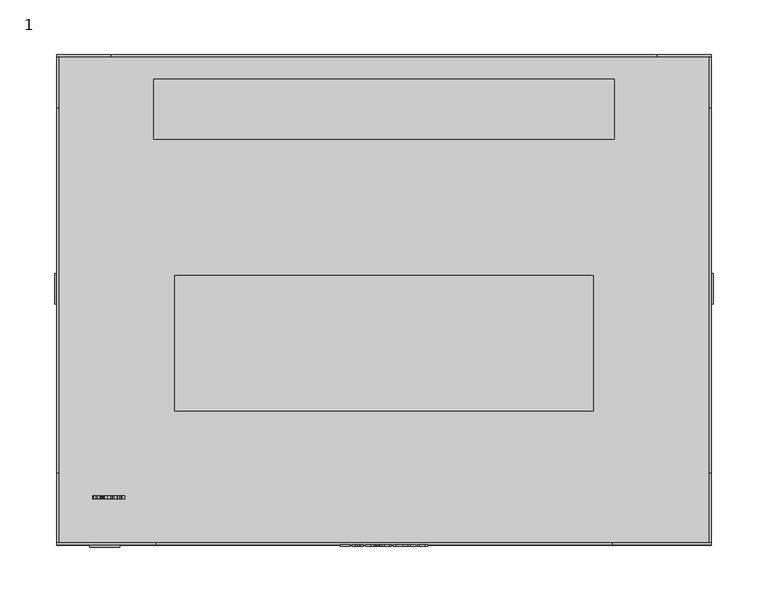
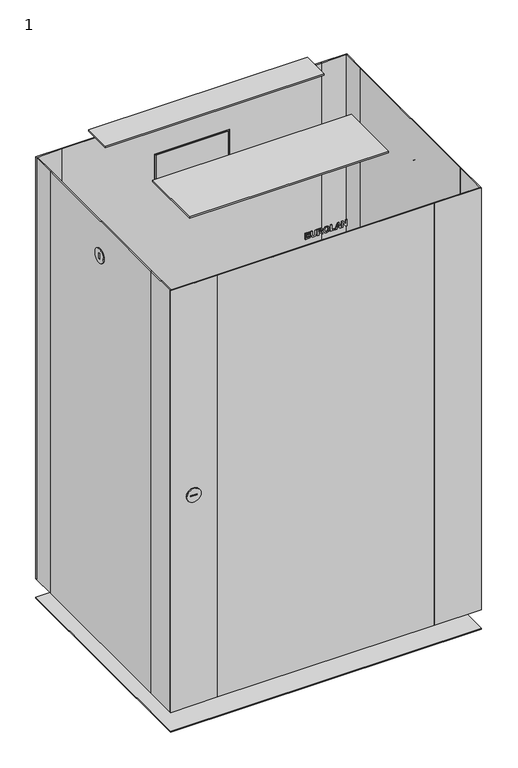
"""IFC4 building model written with IfcOpenShell, lengths in millimetres: proxy geometry, 1 : 18U 450мм стеклянная дверь."""

import ifcopenshell
import ifcopenshell.guid

model = None  # the IFC model being written
_history = None  # IfcOwnerHistory: only IFC2X3 demands one
_inside = {}  # id of a spatial element -> (the spatial element, [elements in it])
_under = {}  # id of a project, library or spatial element -> (it, [spatial elements below it])
_declared = {}  # id of a project -> (the project, [libraries it declares])
_typed = {}  # id of a type object -> (the type object, [elements of that type])
_made_of = {}  # id of a material, layer set ... -> (it, [elements and type objects made of it])


def new_model(schema):
    """Start an empty IFC model of exactly this schema.

    Asked for "IFC4X3", IfcOpenShell would pick the latest addendum, in which some entities
    have other attributes; the version numbers below select the first issue.
    IFC2X3 requires an IfcOwnerHistory on every rooted entity: one is made here for all.
    """
    global model, _history
    if schema == "IFC4X3":
        model = ifcopenshell.file(schema_version=(4, 3, 0, 0))
    else:
        model = ifcopenshell.file(schema=schema)
    _inside.clear()
    _under.clear()
    _declared.clear()
    _typed.clear()
    _made_of.clear()
    _history = None
    if model.schema == "IFC2X3":
        org = make("IfcOrganization", Name="unknown")
        user = make(
            "IfcPersonAndOrganization",
            ThePerson=make("IfcPerson", FamilyName="unknown"),
            TheOrganization=org,
        )
        app = make(
            "IfcApplication",
            ApplicationDeveloper=org,
            Version="unknown",
            ApplicationFullName="unknown",
            ApplicationIdentifier="unknown",
        )
        _history = make(
            "IfcOwnerHistory",
            OwningUser=user,
            OwningApplication=app,
            ChangeAction="ADDED",
            CreationDate=0,
        )
    return model


def make(cls, **values):
    """One entity of the class cls with the attributes given. An attribute that is None is left unset."""
    return model.create_entity(
        cls, **{name: value for name, value in values.items() if value is not None}
    )


def rooted(cls, **values):
    """An entity with a GlobalId (a new one), such as an element, a storey or a relation."""
    return make(cls, GlobalId=ifcopenshell.guid.new(), OwnerHistory=_history, **values)


def si_unit(unit_type, name, prefix=None):
    """IfcSIUnit, for example si_unit("LENGTHUNIT", "METRE", prefix="MILLI")."""
    return make("IfcSIUnit", UnitType=unit_type, Prefix=prefix, Name=name)


def assignment(units):
    """IfcUnitAssignment: the units of a project."""
    return None if units is None else make("IfcUnitAssignment", Units=units)


def point(xyz):
    """IfcCartesianPoint."""
    return None if xyz is None else make("IfcCartesianPoint", Coordinates=xyz)


def direction(xyz):
    """IfcDirection."""
    return None if xyz is None else make("IfcDirection", DirectionRatios=xyz)


def frame(location, z_axis=None, x_axis=None):
    """IfcAxis2Placement3D, a coordinate frame: its origin and axes. An axis left out is left unset."""
    return make(
        "IfcAxis2Placement3D",
        Location=point(location),
        Axis=direction(z_axis),
        RefDirection=direction(x_axis),
    )


def frame_2d(location, x_axis=None):
    """IfcAxis2Placement2D, a coordinate frame in the plane: its origin and x axis."""
    return make(
        "IfcAxis2Placement2D", Location=point(location), RefDirection=direction(x_axis)
    )


def origin():
    """The frame at (0, 0, 0) with its axes left unset."""
    return frame((0.0, 0.0, 0.0))


def origin_with_axes():
    """The frame at (0, 0, 0) with the z axis (0, 0, 1) and the x axis (1, 0, 0) written out."""
    return frame((0.0, 0.0, 0.0), z_axis=(0.0, 0.0, 1.0), x_axis=(1.0, 0.0, 0.0))


def place(relative_to, where):
    """IfcLocalPlacement: puts the frame where relative to a parent placement (None: the world)."""
    return make(
        "IfcLocalPlacement", PlacementRelTo=relative_to, RelativePlacement=where
    )


def context(
    kind, dimensions, precision=None, world=None, true_north=None, identifier=None
):
    """IfcGeometricRepresentationContext, for example the 3D "Model" context."""
    return make(
        "IfcGeometricRepresentationContext",
        ContextIdentifier=identifier,
        ContextType=kind,
        CoordinateSpaceDimension=dimensions,
        Precision=precision,
        WorldCoordinateSystem=world,
        TrueNorth=true_north,
    )


def project(units=None, contexts=None):
    """IfcProject with its units and contexts."""
    return rooted(
        "IfcProject",
        Name="project",
        RepresentationContexts=contexts,
        UnitsInContext=assignment(units),
    )


def spatial(cls, under=None, at=None, **own):
    """A site, building, storey or space (cls), placed at a placement, below another one or the project."""
    s = rooted(cls, ObjectPlacement=at, **own)
    if under is not None:
        _under.setdefault(under.id(), (under, []))[1].append(s)
    return s


def polyline(points):
    """IfcPolyline through the points."""
    return make("IfcPolyline", Points=[point(p) for p in points])


def circle_curve(where, radius):
    """IfcCircle in the frame where."""
    return make("IfcCircle", Position=where, Radius=radius)


def trimmed(basis, trim1, trim2, sense, master):
    """IfcTrimmedCurve: the piece of a basis curve between two trims."""
    return make(
        "IfcTrimmedCurve",
        BasisCurve=basis,
        Trim1=trim1,
        Trim2=trim2,
        SenseAgreement=sense,
        MasterRepresentation=master,
    )


def segment(curve, same_sense, transition):
    """IfcCompositeCurveSegment."""
    return make(
        "IfcCompositeCurveSegment",
        Transition=transition,
        SameSense=same_sense,
        ParentCurve=curve,
    )


def composite_curve(segments, self_intersect=None):
    """IfcCompositeCurve: segments joined end to end."""
    return make("IfcCompositeCurve", Segments=segments, SelfIntersect=self_intersect)


def outline(outer, holes=None, kind="AREA"):
    """IfcArbitraryClosedProfileDef: a profile drawn as a closed curve; with holes, ...WithVoids."""
    if holes is None:
        return make("IfcArbitraryClosedProfileDef", ProfileType=kind, OuterCurve=outer)
    return make(
        "IfcArbitraryProfileDefWithVoids",
        ProfileType=kind,
        OuterCurve=outer,
        InnerCurves=holes,
    )


def extrude(swept, where, along, depth):
    """IfcExtrudedAreaSolid: the profile swept, set in the frame where, extruded along a direction by depth."""
    return make(
        "IfcExtrudedAreaSolid",
        SweptArea=swept,
        Position=where,
        ExtrudedDirection=direction(along),
        Depth=depth,
    )


def shape(context_of_items, identifier, shape_type, items):
    """IfcShapeRepresentation: the items that make up one representation, for example the "Body"."""
    return make(
        "IfcShapeRepresentation",
        ContextOfItems=context_of_items,
        RepresentationIdentifier=identifier,
        RepresentationType=shape_type,
        Items=items,
    )


def source(mapping_origin, context_of_items, identifier, shape_type, items):
    """IfcRepresentationMap: a shape defined once, which mapped items show again and again."""
    return make(
        "IfcRepresentationMap",
        MappingOrigin=mapping_origin,
        MappedRepresentation=shape(context_of_items, identifier, shape_type, items),
    )


def transform(
    local_origin,
    x_axis=None,
    y_axis=None,
    z_axis=None,
    scale=None,
    scale2=None,
    scale3=None,
    uniform=True,
):
    """IfcCartesianTransformationOperator3D, or its non-uniform kind. x_axis, y_axis, z_axis: its Axis1, 2, 3."""
    if uniform:
        return make(
            "IfcCartesianTransformationOperator3D",
            Axis1=direction(x_axis),
            Axis2=direction(y_axis),
            LocalOrigin=point(local_origin),
            Scale=scale,
            Axis3=direction(z_axis),
        )
    return make(
        "IfcCartesianTransformationOperator3DnonUniform",
        Axis1=direction(x_axis),
        Axis2=direction(y_axis),
        LocalOrigin=point(local_origin),
        Scale=scale,
        Axis3=direction(z_axis),
        Scale2=scale2,
        Scale3=scale3,
    )


def mapped(mapping_source, mapping_target):
    """IfcMappedItem: shows the shape of a source again, moved by a transform."""
    return make(
        "IfcMappedItem", MappingSource=mapping_source, MappingTarget=mapping_target
    )


def made_of(thing, what):
    """Note that an element or type object is made of a material, layer set ...; save() writes the relation."""
    if what is not None:
        _made_of.setdefault(what.id(), (what, []))[1].append(thing)
    return thing


def element(
    cls,
    number,
    at=None,
    inside=None,
    cuts=None,
    type_object=None,
    material=None,
    context=None,
    identifier="Body",
    shape_type=None,
    held_by="IfcProductDefinitionShape",
    body=None,
    shapes=None,
    **own,
):
    """One element of the class cls, such as IfcWall. Its Tag is "e" and its number.

    at: its placement. inside: the storey or other place that contains it. cuts: it is an
    opening in that element (IfcRelVoidsElement). A single representation is given by context,
    identifier, shape_type and body (its items); several are given by shapes. held_by: the class
    of the entity that holds the representations. save() writes the other relations.
    """
    e = rooted(cls, Tag="e%d" % number, ObjectPlacement=at, **own)
    if body is not None:
        shapes = [shape(context, identifier, shape_type, body)]
    if shapes is not None:
        e.Representation = make(held_by, Representations=shapes)
    if inside is not None:
        _inside.setdefault(inside.id(), (inside, []))[1].append(e)
    if cuts is not None:
        rooted(
            "IfcRelVoidsElement", RelatingBuildingElement=cuts, RelatedOpeningElement=e
        )
    if type_object is not None:
        _typed.setdefault(type_object.id(), (type_object, []))[1].append(e)
    return made_of(e, material)


def aggregate(whole, parts):
    """IfcRelAggregates: a whole, such as a stair, and the parts it consists of."""
    return rooted("IfcRelAggregates", RelatingObject=whole, RelatedObjects=parts)


def save(model, path):
    """Write the relations noted so far, then the file.

    IfcRelAggregates (storeys below a building ...), IfcRelContainedInSpatialStructure (elements
    in a storey), IfcRelDefinesByType, IfcRelAssociatesMaterial and IfcRelDeclares: one each for
    every whole, place, type object, material and project.
    """
    for whole, parts in _under.values():
        aggregate(whole, parts)
    for where, things in _inside.values():
        rooted(
            "IfcRelContainedInSpatialStructure",
            RelatedElements=things,
            RelatingStructure=where,
        )
    for kind, things in _typed.values():
        rooted("IfcRelDefinesByType", RelatedObjects=things, RelatingType=kind)
    for what, things in _made_of.values():
        rooted("IfcRelAssociatesMaterial", RelatedObjects=things, RelatingMaterial=what)
    for by, libraries in _declared.values():
        rooted("IfcRelDeclares", RelatingContext=by, RelatedDefinitions=libraries)
    model.write(path)


def proxy_1_154220bf(model_context):
    return source(origin(), model_context, "Body", "SweptSolid", [
        extrude(outline(polyline([(914.0, -40.3245382), (914.0, -30.9964522), (916.1376864, -30.9964522), (916.1376864, -37.9925167), (919.2470483, -37.9925167), (919.2470483, -31.5794576), (921.3847347, -31.5794576), (921.3847347, -37.9925167), (924.1054264, -37.9925167), (924.1054264, -31.1907874), (926.2431128, -31.1907874), (926.2431128, -40.3245382), (914.0, -40.3245382)])), frame((0.0, -226.0, 0.0), z_axis=(0.0, 1.0, 0.0), x_axis=(0.0, 0.0, 1.0)), (0.0, 0.0, 1.0), 1.0),
        extrude(outline(polyline([(926.2431128, -29.053101), (919.7207402, -29.053101), (916.6174512, -28.8071456), (915.2601418, -28.1026808), (914.2095176, -26.6482039), (913.8056649, -23.9487675), (914.1761162, -21.5575346), (915.173602, -20.0954664), (916.7085458, -19.3454543), (919.8209443, -19.1420097), (926.2431128, -19.1420097), (926.2431128, -21.4740312), (919.4960402, -21.4740312), (917.4236383, -21.5924541), (916.3714958, -22.2923642), (915.9433512, -24.0216432), (916.3973059, -25.7979877), (917.5982363, -26.6208755), (919.6387551, -26.7210795), (926.2431128, -26.7210795), (926.2431128, -29.053101)])), frame((0.0, -226.0, 0.0), z_axis=(0.0, 1.0, 0.0), x_axis=(0.0, 0.0, 1.0)), (0.0, 0.0, 1.0), 1.0),
        extrude(outline(polyline([(914.0, -16.8099882), (914.0, -14.4779667), (919.0527132, -13.9435451), (918.9251808, -12.6120459), (918.4560437, -11.8164865), (916.7966039, -10.4242575), (914.0, -8.6509495), (914.0, -5.9272213), (916.3745323, -7.424209), (918.3512849, -8.7238252), (919.3715443, -9.9475291), (920.5071902, -7.6625732), (922.7936644, -6.8988969), (924.7339791, -7.4272455), (925.9121358, -8.8361752), (926.2431128, -11.6601074), (926.2431128, -16.8099882), (914.0, -16.8099882)]), holes=[polyline([(921.1903996, -14.4779667), (924.1054264, -14.4779667), (924.1054264, -12.4495939), (924.0659521, -10.5548264), (923.6150339, -9.5770778), (922.6782779, -9.2309184), (921.817434, -9.4935744), (921.3315962, -10.2223312), (921.1903996, -12.5558709), (921.1903996, -14.4779667)])]), frame((0.0, -226.0, 0.0), z_axis=(0.0, 1.0, 0.0), x_axis=(0.0, 0.0, 1.0)), (0.0, 0.0, 1.0), 1.0),
        extrude(outline(polyline([(920.0456442, -4.9555457), (915.4681411, -3.3735363), (913.8056649, 0.8896905), (915.4757323, 5.1225524), (920.106374, 6.7045618), (924.7628257, 5.1104065), (926.4374479, 0.8593256), (925.9546466, -1.7338337), (924.8539203, -3.2869964), (923.1792981, -4.4059416), (920.0456442, -4.9555457)]), holes=[polyline([(920.1306659, -2.6235242), (923.2612832, -1.6579215), (924.2997616, 0.886654), (923.2734292, 3.4190836), (920.1640672, 4.3725403), (916.9985302, 3.3932735), (915.9433512, 0.886654), (917.0061214, -1.6321114), (920.1306659, -2.6235242)])]), frame((0.0, -226.0, 0.0), z_axis=(0.0, 1.0, 0.0), x_axis=(0.0, 0.0, 1.0)), (0.0, 0.0, 1.0), 1.0),
        extrude(outline(polyline([(914.0, 8.647913), (914.0, 17.1986585), (916.1376864, 17.1986585), (916.1376864, 10.9799345), (926.2431128, 10.9799345), (926.2431128, 8.647913), (914.0, 8.647913)])), frame((0.0, -226.0, 0.0), z_axis=(0.0, 1.0, 0.0), x_axis=(0.0, 0.0, 1.0)), (0.0, 0.0, 1.0), 1.0),
        extrude(outline(polyline([(914.0, 29.2474361), (926.2431128, 24.7352175), (926.2431128, 22.2513717), (914.0, 17.7816638), (914.0, 20.2655096), (916.7206917, 21.2128934), (916.7206917, 25.837462), (914.0, 26.7969917), (914.0, 29.2474361)]), holes=[polyline([(918.8583781, 25.0904864), (918.8583781, 21.959869), (923.3280859, 23.51455), (918.8583781, 25.0904864)])]), frame((0.0, -226.0, 0.0), z_axis=(0.0, 1.0, 0.0), x_axis=(0.0, 0.0, 1.0)), (0.0, 0.0, 1.0), 1.0),
        extrude(outline(polyline([(914.0, 30.4134469), (914.0, 32.7454684), (922.1195644, 32.7454684), (914.0, 37.8042546), (914.0, 40.3245382), (926.2431128, 40.3245382), (926.2431128, 37.9925167), (918.002089, 37.9925167), (926.2431128, 32.8578184), (926.2431128, 30.4134469), (914.0, 30.4134469)])), frame((0.0, -226.0, 0.0), z_axis=(0.0, 1.0, 0.0), x_axis=(0.0, 0.0, 1.0)), (0.0, 0.0, 1.0), 1.0),
        extrude(outline(composite_curve([segment(trimmed(circle_curve(frame_2d((9.997621, 829.4611412)), 14.0), [point((-4.002379, 829.4611412))], [point((23.997621, 829.4611412))], False, "CARTESIAN"), True, "CONTINUOUS"), segment(trimmed(circle_curve(frame_2d((9.997621, 829.4611412)), 14.0), [point((23.997621, 829.4611412))], [point((-4.002379, 829.4611412))], False, "CARTESIAN"), True, "CONTINUOUS")], self_intersect=False), holes=[polyline([(11.0, 835.5), (9.0, 835.5), (9.0, 823.5), (11.0, 823.5), (11.0, 835.5)])]), frame((-302.0, 0.0, 0.0), z_axis=(1.0, 0.0, 0.0), x_axis=(0.0, 1.0, 0.0)), (0.0, 0.0, 1.0), 2.0),
        extrude(outline(composite_curve([segment(trimmed(circle_curve(frame_2d((9.997621, 829.4611412)), 14.0), [point((-4.002379, 829.4611412))], [point((23.997621, 829.4611412))], False, "CARTESIAN"), True, "CONTINUOUS"), segment(trimmed(circle_curve(frame_2d((9.997621, 829.4611412)), 14.0), [point((23.997621, 829.4611412))], [point((-4.002379, 829.4611412))], False, "CARTESIAN"), True, "CONTINUOUS")], self_intersect=False), holes=[polyline([(11.0, 835.5), (9.0, 835.5), (9.0, 823.5), (11.0, 823.5), (11.0, 835.5)])]), frame((300.0, 0.0, 0.0), z_axis=(1.0, 0.0, 0.0), x_axis=(0.0, 1.0, 0.0)), (0.0, 0.0, 1.0), 2.0),
        extrude(outline(composite_curve([segment(trimmed(circle_curve(frame_2d((469.0, -256.0)), 13.7647373), [point((469.0, -242.2352627))], [point((469.0, -269.7647373))], False, "CARTESIAN"), True, "CONTINUOUS"), segment(trimmed(circle_curve(frame_2d((469.0, -256.0)), 13.7647373), [point((469.0, -269.7647373))], [point((469.0, -242.2352627))], False, "CARTESIAN"), True, "CONTINUOUS")], self_intersect=False), holes=[polyline([(470.0, -250.0), (468.0, -250.0), (468.0, -262.0), (470.0, -262.0), (470.0, -250.0)])]), frame((0.0, -227.0, 0.0), z_axis=(0.0, 1.0, 0.0), x_axis=(0.0, 0.0, 1.0)), (0.0, 0.0, 1.0), 2.0),
        extrude(outline(polyline([(300.0, 225.0), (300.0, -225.0), (-300.0, -225.0), (-300.0, 225.0), (300.0, 225.0)])), origin_with_axes(), (0.0, 0.0, 1.0), 2.0),
        extrude(outline(polyline([(211.0, 202.5), (211.0, 147.5), (-211.0, 147.5), (-211.0, 202.5), (211.0, 202.5)])), frame((0.0, 0.0, 934.9795778), z_axis=(0.0, 0.0, 1.0), x_axis=(1.0, 0.0, 0.0)), (0.0, 0.0, 1.0), 3.0204222),
        extrude(outline(polyline([(192.0, 22.0), (192.0, -102.0), (-192.0, -102.0), (-192.0, 22.0), (192.0, 22.0)])), frame((0.0, 0.0, 934.9795778), z_axis=(0.0, 0.0, 1.0), x_axis=(1.0, 0.0, 0.0)), (0.0, 0.0, 1.0), 3.0204222),
        extrude(outline(polyline([(-69.5, 225.0), (69.5, 225.0), (69.5, 223.0), (-69.5, 223.0), (-69.5, 225.0)])), frame((0.0, 0.0, 775.0), z_axis=(0.0, 0.0, 1.0), x_axis=(1.0, 0.0, 0.0)), (0.0, 0.0, 1.0), 49.0),
        extrude(outline(polyline([(900.0, -250.0), (40.0, -250.0), (40.0, 250.0), (900.0, 250.0), (900.0, -250.0)]), holes=[polyline([(827.0, -72.5), (827.0, 72.5), (772.0, 72.5), (772.0, -72.5), (827.0, -72.5)])]), frame((0.0, 223.0, 0.0), z_axis=(0.0, 1.0, 0.0), x_axis=(0.0, 0.0, 1.0)), (0.0, 0.0, 1.0), 2.0),
        extrude(outline(polyline([(-300.0, 225.0), (-250.0, 225.0), (-250.0, 223.0), (-300.0, 223.0), (-300.0, 225.0)])), frame((0.0, 0.0, 40.0), z_axis=(0.0, 0.0, 1.0), x_axis=(1.0, 0.0, 0.0)), (0.0, 0.0, 1.0), 860.0),
        extrude(outline(polyline([(250.0, 225.0), (300.0, 225.0), (300.0, 223.0), (250.0, 223.0), (250.0, 225.0)])), frame((0.0, 0.0, 40.0), z_axis=(0.0, 0.0, 1.0), x_axis=(1.0, 0.0, 0.0)), (0.0, 0.0, 1.0), 860.0),
        extrude(outline(polyline([(-209.0, -223.0), (209.0, -223.0), (209.0, -225.0), (-209.0, -225.0), (-209.0, -223.0)])), frame((0.0, 0.0, 40.0), z_axis=(0.0, 0.0, 1.0), x_axis=(1.0, 0.0, 0.0)), (0.0, 0.0, 1.0), 860.0),
        extrude(outline(polyline([(209.0, -223.0), (300.0, -223.0), (300.0, -225.0), (209.0, -225.0), (209.0, -223.0)])), frame((0.0, 0.0, 40.0), z_axis=(0.0, 0.0, 1.0), x_axis=(1.0, 0.0, 0.0)), (0.0, 0.0, 1.0), 860.0),
        extrude(outline(polyline([(-300.0, -223.0), (-209.0, -223.0), (-209.0, -225.0), (-300.0, -225.0), (-300.0, -223.0)])), frame((0.0, 0.0, 40.0), z_axis=(0.0, 0.0, 1.0), x_axis=(1.0, 0.0, 0.0)), (0.0, 0.0, 1.0), 860.0),
        extrude(outline(polyline([(-298.0, 175.8155315), (-298.0, -158.7095641), (-300.0, -158.7095641), (-300.0, 175.8155315), (-298.0, 175.8155315)])), frame((0.0, 0.0, 40.0), z_axis=(0.0, 0.0, 1.0), x_axis=(1.0, 0.0, 0.0)), (0.0, 0.0, 1.0), 860.0),
        extrude(outline(polyline([(-298.0, -158.7095641), (-298.0, -225.0), (-300.0, -225.0), (-300.0, -158.7095641), (-298.0, -158.7095641)])), frame((0.0, 0.0, 40.0), z_axis=(0.0, 0.0, 1.0), x_axis=(1.0, 0.0, 0.0)), (0.0, 0.0, 1.0), 860.0),
        extrude(outline(polyline([(-298.0, 225.0), (-298.0, 175.8155315), (-300.0, 175.8155315), (-300.0, 225.0), (-298.0, 225.0)])), frame((0.0, 0.0, 40.0), z_axis=(0.0, 0.0, 1.0), x_axis=(1.0, 0.0, 0.0)), (0.0, 0.0, 1.0), 860.0),
        extrude(outline(polyline([(300.0, 175.8155315), (300.0, -158.7095641), (298.0, -158.7095641), (298.0, 175.8155315), (300.0, 175.8155315)])), frame((0.0, 0.0, 40.0), z_axis=(0.0, 0.0, 1.0), x_axis=(1.0, 0.0, 0.0)), (0.0, 0.0, 1.0), 860.0),
        extrude(outline(polyline([(300.0, 225.0), (300.0, 175.8155315), (298.0, 175.8155315), (298.0, 225.0), (300.0, 225.0)])), frame((0.0, 0.0, 40.0), z_axis=(0.0, 0.0, 1.0), x_axis=(1.0, 0.0, 0.0)), (0.0, 0.0, 1.0), 860.0),
        extrude(outline(polyline([(300.0, -158.7095641), (300.0, -225.0), (298.0, -225.0), (298.0, -158.7095641), (300.0, -158.7095641)])), frame((0.0, 0.0, 40.0), z_axis=(0.0, 0.0, 1.0), x_axis=(1.0, 0.0, 0.0)), (0.0, 0.0, 1.0), 860.0),
        extrude(outline(polyline([(814.9283299, -260.6030776), (827.1714427, -260.6030776), (827.1714427, -262.4614073), (825.2053178, -263.9037383), (824.0620807, -265.850126), (821.7300592, -265.850126), (823.6794834, -262.9350991), (814.9283299, -262.9350991), (814.9283299, -260.6030776)])), frame((0.0, -182.6777479, 0.0), z_axis=(0.0, 1.0, 0.0), x_axis=(0.0, 0.0, 1.0)), (0.0, 0.0, 1.0), 3.0),
        extrude(outline(polyline([(821.4962498, -255.0584536), (820.2254803, -256.6116164), (818.4172527, -257.1050454), (815.6024299, -255.8388306), (814.7339948, -253.1545767), (815.784619, -250.3761917), (818.5174567, -249.3316405), (820.3120201, -249.8584708), (821.4962498, -251.3964511), (822.508918, -250.0163681), (824.0226064, -249.5259756), (826.280234, -250.4946147), (827.1714427, -253.2183429), (826.280234, -255.9496624), (824.0226064, -256.9107103), (822.5499105, -256.4704198), (821.4962498, -255.0584536)]), holes=[polyline([(823.8798915, -254.5786888), (825.000355, -254.205201), (825.4224266, -253.2031605), (825.0033915, -252.2269302), (823.889001, -251.8579971), (822.7320997, -252.2314849), (822.3130646, -253.2274524), (822.727545, -254.2097557), (823.8798915, -254.5786888)]), polyline([(818.6146243, -254.7730239), (819.94916, -254.3889084), (820.5640485, -253.2213794), (820.0220357, -252.1039525), (818.5872959, -251.6636619), (817.0250237, -252.0963612), (816.4830109, -253.1910146), (817.0462791, -254.3205875), (818.6146243, -254.7730239)])]), frame((0.0, -182.6777479, 0.0), z_axis=(0.0, 1.0, 0.0), x_axis=(0.0, 0.0, 1.0)), (0.0, 0.0, 1.0), 3.0),
        extrude(outline(polyline([(827.1714427, -247.3882892), (820.6490701, -247.3882892), (817.5457811, -247.1423338), (816.1884717, -246.437869), (815.1378475, -244.9833921), (814.7339948, -242.2839557), (815.1044461, -239.8927228), (816.1019319, -238.4306546), (817.6368757, -237.6806425), (820.7492742, -237.4771979), (827.1714427, -237.4771979), (827.1714427, -239.8092194), (820.4243701, -239.8092194), (818.3519682, -239.9276424), (817.2998257, -240.6275524), (816.8716811, -242.3568314), (817.3256358, -244.1331759), (818.5265662, -244.9560637), (820.567085, -245.0562677), (827.1714427, -245.0562677), (827.1714427, -247.3882892)])), frame((0.0, -182.6777479, 0.0), z_axis=(0.0, 1.0, 0.0), x_axis=(0.0, 0.0, 1.0)), (0.0, 0.0, 1.0), 3.0),
        extrude(outline(polyline([(769.9283299, -260.6030776), (782.1714427, -260.6030776), (782.1714427, -262.4614073), (780.2053178, -263.9037383), (779.0620807, -265.850126), (776.7300592, -265.850126), (778.6794834, -262.9350991), (769.9283299, -262.9350991), (769.9283299, -260.6030776)])), frame((0.0, -182.6777479, 0.0), z_axis=(0.0, 1.0, 0.0), x_axis=(0.0, 0.0, 1.0)), (0.0, 0.0, 1.0), 3.0),
        extrude(outline(polyline([(779.6450861, -257.1050454), (779.6450861, -251.9976754), (775.0129262, -254.6804111), (769.9283299, -255.7446995), (769.9283299, -253.4126781), (773.5812229, -252.8873659), (777.440597, -251.3342032), (780.2280915, -249.3316405), (781.9771076, -249.3316405), (781.9771076, -257.1050454), (779.6450861, -257.1050454)])), frame((0.0, -182.6777479, 0.0), z_axis=(0.0, 1.0, 0.0), x_axis=(0.0, 0.0, 1.0)), (0.0, 0.0, 1.0), 3.0),
        extrude(outline(polyline([(782.1714427, -247.3882892), (775.6490701, -247.3882892), (772.5457811, -247.1423338), (771.1884717, -246.437869), (770.1378475, -244.9833921), (769.7339948, -242.2839557), (770.1044461, -239.8927228), (771.1019319, -238.4306546), (772.6368757, -237.6806425), (775.7492742, -237.4771979), (782.1714427, -237.4771979), (782.1714427, -239.8092194), (775.4243701, -239.8092194), (773.3519682, -239.9276424), (772.2998257, -240.6275524), (771.8716811, -242.3568314), (772.3256358, -244.1331759), (773.5265662, -244.9560637), (775.567085, -245.0562677), (782.1714427, -245.0562677), (782.1714427, -247.3882892)])), frame((0.0, -182.6777479, 0.0), z_axis=(0.0, 1.0, 0.0), x_axis=(0.0, 0.0, 1.0)), (0.0, 0.0, 1.0), 3.0),
        extrude(outline(polyline([(723.5967514, -260.6030776), (735.8398642, -260.6030776), (735.8398642, -262.4614073), (733.8737393, -263.9037383), (732.7305022, -265.850126), (730.3984808, -265.850126), (732.347905, -262.9350991), (723.5967514, -262.9350991), (723.5967514, -260.6030776)])), frame((0.0, -182.6777479, 0.0), z_axis=(0.0, 1.0, 0.0), x_axis=(0.0, 0.0, 1.0)), (0.0, 0.0, 1.0), 3.0),
        extrude(outline(polyline([(732.5908239, -249.5259756), (735.007867, -250.6373296), (735.8398642, -252.8387821), (734.3610954, -255.9192975), (729.5330822, -257.1050454), (724.8356378, -255.9693995), (723.4024163, -253.0725916), (724.512252, -250.3792282), (727.4561255, -249.3316405), (730.2770213, -250.3564546), (731.3701564, -252.8205632), (730.3468605, -254.9521766), (733.0569245, -254.3357699), (733.7021779, -253.1393943), (733.3696826, -252.2709592), (732.341832, -251.8579971), (732.5908239, -249.5259756)]), holes=[polyline([(727.5077458, -254.7730239), (728.795216, -254.3251422), (729.23247, -253.2304889), (728.7754788, -252.1115437), (727.3346661, -251.6636619), (725.9591378, -252.0796606), (725.5401027, -253.1181389), (726.0517506, -254.2689672), (727.5077458, -254.7730239)])]), frame((0.0, -182.6777479, 0.0), z_axis=(0.0, 1.0, 0.0), x_axis=(0.0, 0.0, 1.0)), (0.0, 0.0, 1.0), 3.0),
        extrude(outline(polyline([(735.8398642, -247.3882892), (729.3174916, -247.3882892), (726.2142026, -247.1423338), (724.8568932, -246.437869), (723.806269, -244.9833921), (723.4024163, -242.2839557), (723.7728676, -239.8927228), (724.7703534, -238.4306546), (726.3052972, -237.6806425), (729.4176957, -237.4771979), (735.8398642, -237.4771979), (735.8398642, -239.8092194), (729.0927916, -239.8092194), (727.0203897, -239.9276424), (725.9682472, -240.6275524), (725.5401027, -242.3568314), (725.9940574, -244.1331759), (727.1949877, -244.9560637), (729.2355065, -245.0562677), (735.8398642, -245.0562677), (735.8398642, -247.3882892)])), frame((0.0, -182.6777479, 0.0), z_axis=(0.0, 1.0, 0.0), x_axis=(0.0, 0.0, 1.0)), (0.0, 0.0, 1.0), 3.0),
        extrude(outline(polyline([(680.748317, -260.6030776), (692.9914298, -260.6030776), (692.9914298, -262.4614073), (691.0253049, -263.9037383), (689.8820678, -265.850126), (687.5500463, -265.850126), (689.4994705, -262.9350991), (680.748317, -262.9350991), (680.748317, -260.6030776)])), frame((0.0, -182.6777479, 0.0), z_axis=(0.0, 1.0, 0.0), x_axis=(0.0, 0.0, 1.0)), (0.0, 0.0, 1.0), 3.0),
        extrude(outline(polyline([(684.1947289, -257.1050454), (681.5408399, -255.8676772), (680.5539818, -253.194051), (682.1268817, -249.984485), (684.7473694, -249.1373053), (687.6122943, -250.1545282), (688.716057, -252.6323011), (688.2393287, -254.1353618), (690.4650731, -253.6647064), (690.4650731, -249.7203107), (692.7970946, -249.7203107), (692.7970946, -255.5503644), (685.9073072, -256.9107103), (685.606695, -254.8884104), (686.5783707, -253.1819051), (686.1077153, -251.9445369), (684.6957492, -251.4693268), (683.1911702, -251.9809748), (682.6916682, -253.2304889), (683.1623236, -254.3722077), (684.4406843, -254.967359), (684.1947289, -257.1050454)])), frame((0.0, -182.6777479, 0.0), z_axis=(0.0, 1.0, 0.0), x_axis=(0.0, 0.0, 1.0)), (0.0, 0.0, 1.0), 3.0),
        extrude(outline(polyline([(692.9914298, -247.3882892), (686.4690572, -247.3882892), (683.3657682, -247.1423338), (682.0084588, -246.437869), (680.9578345, -244.9833921), (680.5539818, -242.2839557), (680.9244332, -239.8927228), (681.9219189, -238.4306546), (683.4568627, -237.6806425), (686.5692612, -237.4771979), (692.9914298, -237.4771979), (692.9914298, -239.8092194), (686.2443572, -239.8092194), (684.1719553, -239.9276424), (683.1198128, -240.6275524), (682.6916682, -242.3568314), (683.1456229, -244.1331759), (684.3465532, -244.9560637), (686.387072, -245.0562677), (692.9914298, -245.0562677), (692.9914298, -247.3882892)])), frame((0.0, -182.6777479, 0.0), z_axis=(0.0, 1.0, 0.0), x_axis=(0.0, 0.0, 1.0)), (0.0, 0.0, 1.0), 3.0),
        extrude(outline(polyline([(636.0351924, -260.6030776), (648.2783052, -260.6030776), (648.2783052, -262.4614073), (646.3121803, -263.9037383), (645.1689432, -265.850126), (642.8369217, -265.850126), (644.7863459, -262.9350991), (636.0351924, -262.9350991), (636.0351924, -260.6030776)])), frame((0.0, -182.6777479, 0.0), z_axis=(0.0, 1.0, 0.0), x_axis=(0.0, 0.0, 1.0)), (0.0, 0.0, 1.0), 3.0),
        extrude(outline(polyline([(636.0351924, -252.8296727), (636.0351924, -250.4976512), (638.561549, -250.4976512), (638.561549, -248.9429702), (640.5049002, -248.9429702), (640.5049002, -250.4976512), (648.08397, -250.4976512), (648.08397, -252.5199511), (640.4957907, -257.4937157), (638.561549, -257.4937157), (638.561549, -252.8296727), (636.0351924, -252.8296727)]), holes=[polyline([(640.5049002, -252.8296727), (640.5049002, -255.4349779), (644.4826973, -252.8296727), (640.5049002, -252.8296727)])]), frame((0.0, -182.6777479, 0.0), z_axis=(0.0, 1.0, 0.0), x_axis=(0.0, 0.0, 1.0)), (0.0, 0.0, 1.0), 3.0),
        extrude(outline(polyline([(648.2783052, -247.3882892), (641.7559326, -247.3882892), (638.6526436, -247.1423338), (637.2953342, -246.437869), (636.2447099, -244.9833921), (635.8408572, -242.2839557), (636.2113086, -239.8927228), (637.2087943, -238.4306546), (638.7437381, -237.6806425), (641.8561366, -237.4771979), (648.2783052, -237.4771979), (648.2783052, -239.8092194), (641.5312326, -239.8092194), (639.4588307, -239.9276424), (638.4066882, -240.6275524), (637.9785436, -242.3568314), (638.4324983, -244.1331759), (639.6334286, -244.9560637), (641.6739474, -245.0562677), (648.2783052, -245.0562677), (648.2783052, -247.3882892)])), frame((0.0, -182.6777479, 0.0), z_axis=(0.0, 1.0, 0.0), x_axis=(0.0, 0.0, 1.0)), (0.0, 0.0, 1.0), 3.0),
        extrude(outline(polyline([(591.485825, -260.6030776), (603.7289378, -260.6030776), (603.7289378, -262.4614073), (601.762813, -263.9037383), (600.6195759, -265.850126), (598.2875544, -265.850126), (600.2369786, -262.9350991), (591.485825, -262.9350991), (591.485825, -260.6030776)])), frame((0.0, -182.6777479, 0.0), z_axis=(0.0, 1.0, 0.0), x_axis=(0.0, 0.0, 1.0)), (0.0, 0.0, 1.0), 3.0),
        extrude(outline(polyline([(594.9079451, -257.1050454), (592.2920122, -255.8919691), (591.2914899, -253.2578173), (592.4165081, -250.4566586), (595.1356816, -249.3316405), (597.0137484, -249.9662661), (598.0142706, -251.6606255), (600.5861745, -249.9146458), (602.6266933, -250.7284242), (603.7289378, -253.3458754), (603.3311581, -255.0690813), (602.2395413, -256.2684934), (600.3857664, -256.9107103), (600.0365705, -254.5786888), (601.19499, -254.1611719), (601.5912515, -253.3306929), (601.2496468, -252.5427247), (600.3341462, -252.2466673), (599.253157, -252.6429288), (598.8705597, -253.7922388), (596.9484639, -253.9956834), (597.1215436, -253.0695551), (596.6387423, -252.0720693), (595.3300167, -251.6636619), (593.9438607, -252.1100254), (593.4291763, -253.21227), (593.8785763, -254.2477118), (595.1781924, -254.7730239), (594.9079451, -257.1050454)])), frame((0.0, -182.6777479, 0.0), z_axis=(0.0, 1.0, 0.0), x_axis=(0.0, 0.0, 1.0)), (0.0, 0.0, 1.0), 3.0),
        extrude(outline(polyline([(603.7289378, -247.3882892), (597.2065653, -247.3882892), (594.1032762, -247.1423338), (592.7459669, -246.437869), (591.6953426, -244.9833921), (591.2914899, -242.2839557), (591.6619413, -239.8927228), (592.659427, -238.4306546), (594.1943708, -237.6806425), (597.3067693, -237.4771979), (603.7289378, -237.4771979), (603.7289378, -239.8092194), (596.9818653, -239.8092194), (594.9094634, -239.9276424), (593.8573209, -240.6275524), (593.4291763, -242.3568314), (593.883131, -244.1331759), (595.0840613, -244.9560637), (597.1245801, -245.0562677), (603.7289378, -245.0562677), (603.7289378, -247.3882892)])), frame((0.0, -182.6777479, 0.0), z_axis=(0.0, 1.0, 0.0), x_axis=(0.0, 0.0, 1.0)), (0.0, 0.0, 1.0), 3.0),
        extrude(outline(polyline([(547.6333267, -260.6030776), (559.8764395, -260.6030776), (559.8764395, -262.4614073), (557.9103146, -263.9037383), (556.7670775, -265.850126), (554.435056, -265.850126), (556.3844802, -262.9350991), (547.6333267, -262.9350991), (547.6333267, -260.6030776)])), frame((0.0, -182.6777479, 0.0), z_axis=(0.0, 1.0, 0.0), x_axis=(0.0, 0.0, 1.0)), (0.0, 0.0, 1.0), 3.0),
        extrude(outline(polyline([(549.9653481, -249.3316405), (550.6030103, -253.2395983), (551.9299548, -251.9080991), (553.4603439, -250.4581769), (554.9937695, -249.6018877), (556.5363045, -249.3316405), (558.918428, -250.3184985), (559.8764395, -253.0331173), (559.0216686, -255.6596779), (556.202291, -256.9107103), (555.989737, -254.5786888), (557.3333822, -254.1292888), (557.7387531, -253.0847375), (557.3273092, -252.0417045), (556.1476343, -251.6636619), (554.7447776, -252.1130619), (552.7892804, -253.9167348), (549.9213191, -256.3611063), (547.6333267, -257.1050454), (547.6333267, -249.3316405), (549.9653481, -249.3316405)])), frame((0.0, -182.6777479, 0.0), z_axis=(0.0, 1.0, 0.0), x_axis=(0.0, 0.0, 1.0)), (0.0, 0.0, 1.0), 3.0),
        extrude(outline(polyline([(559.8764395, -247.3882892), (553.3540669, -247.3882892), (550.2507779, -247.1423338), (548.8934685, -246.437869), (547.8428442, -244.9833921), (547.4389915, -242.2839557), (547.8094429, -239.8927228), (548.8069286, -238.4306546), (550.3418725, -237.6806425), (553.4542709, -237.4771979), (559.8764395, -237.4771979), (559.8764395, -239.8092194), (553.1293669, -239.8092194), (551.056965, -239.9276424), (550.0048225, -240.6275524), (549.5766779, -242.3568314), (550.0306326, -244.1331759), (551.2315629, -244.9560637), (553.2720817, -245.0562677), (559.8764395, -245.0562677), (559.8764395, -247.3882892)])), frame((0.0, -182.6777479, 0.0), z_axis=(0.0, 1.0, 0.0), x_axis=(0.0, 0.0, 1.0)), (0.0, 0.0, 1.0), 3.0),
        extrude(outline(polyline([(501.1786301, -260.6030776), (513.4217429, -260.6030776), (513.4217429, -262.4614073), (511.455618, -263.9037383), (510.3123809, -265.850126), (507.9803594, -265.850126), (509.9297836, -262.9350991), (501.1786301, -262.9350991), (501.1786301, -260.6030776)])), frame((0.0, -182.6777479, 0.0), z_axis=(0.0, 1.0, 0.0), x_axis=(0.0, 0.0, 1.0)), (0.0, 0.0, 1.0), 3.0),
        extrude(outline(polyline([(501.1786301, -251.2749917), (513.4217429, -251.2749917), (513.4217429, -253.1333213), (511.455618, -254.5756523), (510.3123809, -256.52204), (507.9803594, -256.52204), (509.9297836, -253.6070132), (501.1786301, -253.6070132), (501.1786301, -251.2749917)])), frame((0.0, -182.6777479, 0.0), z_axis=(0.0, 1.0, 0.0), x_axis=(0.0, 0.0, 1.0)), (0.0, 0.0, 1.0), 3.0),
        extrude(outline(polyline([(513.4217429, -247.3882892), (506.8993703, -247.3882892), (503.7960813, -247.1423338), (502.4387719, -246.437869), (501.3881476, -244.9833921), (500.9842949, -242.2839557), (501.3547463, -239.8927228), (502.352232, -238.4306546), (503.8871758, -237.6806425), (506.9995743, -237.4771979), (513.4217429, -237.4771979), (513.4217429, -239.8092194), (506.6746703, -239.8092194), (504.6022684, -239.9276424), (503.5501259, -240.6275524), (503.1219813, -242.3568314), (503.575936, -244.1331759), (504.7768663, -244.9560637), (506.8173851, -245.0562677), (513.4217429, -245.0562677), (513.4217429, -247.3882892)])), frame((0.0, -182.6777479, 0.0), z_axis=(0.0, 1.0, 0.0), x_axis=(0.0, 0.0, 1.0)), (0.0, 0.0, 1.0), 3.0),
        extrude(outline(polyline([(457.3261317, -260.6030776), (469.5692445, -260.6030776), (469.5692445, -262.4614073), (467.6031196, -263.9037383), (466.4598825, -265.850126), (464.127861, -265.850126), (466.0772852, -262.9350991), (457.3261317, -262.9350991), (457.3261317, -260.6030776)])), frame((0.0, -182.6777479, 0.0), z_axis=(0.0, 1.0, 0.0), x_axis=(0.0, 0.0, 1.0)), (0.0, 0.0, 1.0), 3.0),
        extrude(outline(polyline([(469.5692445, -253.2183429), (468.3242851, -255.9299252), (463.3717759, -257.1050454), (458.4982154, -256.034684), (457.1317966, -253.2183429), (458.3767559, -250.5067607), (463.347484, -249.3316405), (468.3060662, -250.5006877), (469.5692445, -253.2183429)]), holes=[polyline([(467.4315581, -253.2183429), (467.174975, -252.4455572), (466.1531974, -251.8853254), (463.347484, -251.6636619), (460.4476396, -251.9126538), (459.526066, -252.4410024), (459.2694829, -253.2183429), (459.5230295, -253.9911287), (460.5402524, -254.5513604), (463.347484, -254.7730239), (466.2534014, -254.524032), (467.174975, -253.9956834), (467.4315581, -253.2183429)])]), frame((0.0, -182.6777479, 0.0), z_axis=(0.0, 1.0, 0.0), x_axis=(0.0, 0.0, 1.0)), (0.0, 0.0, 1.0), 3.0),
        extrude(outline(polyline([(469.5692445, -247.3882892), (463.0468719, -247.3882892), (459.9435829, -247.1423338), (458.5862735, -246.437869), (457.5356492, -244.9833921), (457.1317966, -242.2839557), (457.5022479, -239.8927228), (458.4997336, -238.4306546), (460.0346775, -237.6806425), (463.1470759, -237.4771979), (469.5692445, -237.4771979), (469.5692445, -239.8092194), (462.8221719, -239.8092194), (460.74977, -239.9276424), (459.6976275, -240.6275524), (459.2694829, -242.3568314), (459.7234376, -244.1331759), (460.924368, -244.9560637), (462.9648868, -245.0562677), (469.5692445, -245.0562677), (469.5692445, -247.3882892)])), frame((0.0, -182.6777479, 0.0), z_axis=(0.0, 1.0, 0.0), x_axis=(0.0, 0.0, 1.0)), (0.0, 0.0, 1.0), 3.0),
        extrude(outline(polyline([(416.2414631, -266.2387962), (413.8062011, -265.1547706), (412.9924228, -262.9381356), (414.4696734, -259.8469925), (419.2870589, -258.6597264), (423.9981674, -259.7953723), (425.4298707, -262.7012897), (424.3169985, -265.3809888), (421.3852709, -266.4331314), (418.550711, -265.4083172), (417.4621306, -262.971537), (418.476317, -260.8065222), (415.7753625, -261.4290019), (415.1301091, -262.6071586), (415.4641226, -263.4922944), (416.490455, -263.9067747), (416.2414631, -266.2387962)]), holes=[polyline([(421.3306142, -260.9917479), (420.0385892, -261.4365931), (419.599817, -262.5312464), (420.0568082, -263.6517099), (421.4885115, -264.1011099), (422.8701127, -263.6881477), (423.2921843, -262.6496694), (422.7774999, -261.4927681), (421.3306142, -260.9917479)])]), frame((0.0, -182.6777479, 0.0), z_axis=(0.0, 1.0, 0.0), x_axis=(0.0, 0.0, 1.0)), (0.0, 0.0, 1.0), 3.0),
        extrude(outline(polyline([(425.4298707, -256.7163752), (418.9074981, -256.7163752), (415.8042091, -256.4704198), (414.4468997, -255.7659549), (413.3962754, -254.311478), (412.9924228, -251.6120417), (413.3628741, -249.2208087), (414.3603599, -247.7587405), (415.8953037, -247.0087284), (419.0077021, -246.8052838), (425.4298707, -246.8052838), (425.4298707, -249.1373053), (418.6827981, -249.1373053), (416.6103962, -249.2557283), (415.5582537, -249.9556384), (415.1301091, -251.6849173), (415.5840638, -253.4612618), (416.7849942, -254.2841496), (418.825513, -254.3843537), (425.4298707, -254.3843537), (425.4298707, -256.7163752)])), frame((0.0, -182.6777479, 0.0), z_axis=(0.0, 1.0, 0.0), x_axis=(0.0, 0.0, 1.0)), (0.0, 0.0, 1.0), 3.0),
        extrude(outline(polyline([(376.4962498, -264.3865396), (375.2254803, -265.9397023), (373.4172527, -266.4331314), (370.6024299, -265.1669166), (369.7339948, -262.4826627), (370.784619, -259.7042777), (373.5174567, -258.6597264), (375.3120201, -259.1865568), (376.4962498, -260.7245371), (377.508918, -259.3444541), (379.0226064, -258.8540615), (381.280234, -259.8227007), (382.1714427, -262.5464289), (381.280234, -265.2777483), (379.0226064, -266.2387962), (377.5499105, -265.7985057), (376.4962498, -264.3865396)]), holes=[polyline([(378.8798915, -263.9067747), (380.000355, -263.5332869), (380.4224266, -262.5312464), (380.0033915, -261.5550161), (378.889001, -261.186083), (377.7320997, -261.5595708), (377.3130646, -262.5555383), (377.727545, -263.5378417), (378.8798915, -263.9067747)]), polyline([(373.6146243, -264.1011099), (374.94916, -263.7169943), (375.5640485, -262.5494654), (375.0220357, -261.4320384), (373.5872959, -260.9917479), (372.0250237, -261.4244472), (371.4830109, -262.5191005), (372.0462791, -263.6486734), (373.6146243, -264.1011099)])]), frame((0.0, -182.6777479, 0.0), z_axis=(0.0, 1.0, 0.0), x_axis=(0.0, 0.0, 1.0)), (0.0, 0.0, 1.0), 3.0),
        extrude(outline(polyline([(382.1714427, -256.7163752), (375.6490701, -256.7163752), (372.5457811, -256.4704198), (371.1884717, -255.7659549), (370.1378475, -254.311478), (369.7339948, -251.6120417), (370.1044461, -249.2208087), (371.1019319, -247.7587405), (372.6368757, -247.0087284), (375.7492742, -246.8052838), (382.1714427, -246.8052838), (382.1714427, -249.1373053), (375.4243701, -249.1373053), (373.3519682, -249.2557283), (372.2998257, -249.9556384), (371.8716811, -251.6849173), (372.3256358, -253.4612618), (373.5265662, -254.2841496), (375.567085, -254.3843537), (382.1714427, -254.3843537), (382.1714427, -256.7163752)])), frame((0.0, -182.6777479, 0.0), z_axis=(0.0, 1.0, 0.0), x_axis=(0.0, 0.0, 1.0)), (0.0, 0.0, 1.0), 3.0),
        extrude(outline(polyline([(334.6450861, -266.4331314), (334.6450861, -261.3257614), (330.0129262, -264.008497), (324.9283299, -265.0727855), (324.9283299, -262.740764), (328.5812229, -262.2154519), (332.440597, -260.6622891), (335.2280915, -258.6597264), (336.9771076, -258.6597264), (336.9771076, -266.4331314), (334.6450861, -266.4331314)])), frame((0.0, -182.6777479, 0.0), z_axis=(0.0, 1.0, 0.0), x_axis=(0.0, 0.0, 1.0)), (0.0, 0.0, 1.0), 3.0),
        extrude(outline(polyline([(337.1714427, -256.7163752), (330.6490701, -256.7163752), (327.5457811, -256.4704198), (326.1884717, -255.7659549), (325.1378475, -254.311478), (324.7339948, -251.6120417), (325.1044461, -249.2208087), (326.1019319, -247.7587405), (327.6368757, -247.0087284), (330.7492742, -246.8052838), (337.1714427, -246.8052838), (337.1714427, -249.1373053), (330.4243701, -249.1373053), (328.3519682, -249.2557283), (327.2998257, -249.9556384), (326.8716811, -251.6849173), (327.3256358, -253.4612618), (328.5265662, -254.2841496), (330.567085, -254.3843537), (337.1714427, -254.3843537), (337.1714427, -256.7163752)])), frame((0.0, -182.6777479, 0.0), z_axis=(0.0, 1.0, 0.0), x_axis=(0.0, 0.0, 1.0)), (0.0, 0.0, 1.0), 3.0),
        extrude(outline(polyline([(287.6111434, -258.8540615), (290.0281866, -259.9654155), (290.8601838, -262.1668681), (289.381415, -265.2473834), (284.5534017, -266.4331314), (279.8559574, -265.2974855), (278.4227359, -262.4006775), (279.5325716, -259.7073142), (282.4764451, -258.6597264), (285.2973409, -259.6845405), (286.390476, -262.1486492), (285.3671801, -264.2802626), (288.0772441, -263.6638558), (288.7224974, -262.4674802), (288.3900022, -261.5990451), (287.3621516, -261.186083), (287.6111434, -258.8540615)]), holes=[polyline([(282.5280654, -264.1011099), (283.8155356, -263.6532281), (284.2527896, -262.5585748), (283.7957984, -261.4396296), (282.3549856, -260.9917479), (280.9794573, -261.4077465), (280.5604222, -262.4462248), (281.0720702, -263.5970531), (282.5280654, -264.1011099)])]), frame((0.0, -182.6777479, 0.0), z_axis=(0.0, 1.0, 0.0), x_axis=(0.0, 0.0, 1.0)), (0.0, 0.0, 1.0), 3.0),
        extrude(outline(polyline([(290.8601838, -256.7163752), (284.3378112, -256.7163752), (281.2345222, -256.4704198), (279.8772128, -255.7659549), (278.8265886, -254.311478), (278.4227359, -251.6120417), (278.7931872, -249.2208087), (279.790673, -247.7587405), (281.3256168, -247.0087284), (284.4380153, -246.8052838), (290.8601838, -246.8052838), (290.8601838, -249.1373053), (284.1131112, -249.1373053), (282.0407093, -249.2557283), (280.9885668, -249.9556384), (280.5604222, -251.6849173), (281.0143769, -253.4612618), (282.2153073, -254.2841496), (284.2558261, -254.3843537), (290.8601838, -254.3843537), (290.8601838, -256.7163752)])), frame((0.0, -182.6777479, 0.0), z_axis=(0.0, 1.0, 0.0), x_axis=(0.0, 0.0, 1.0)), (0.0, 0.0, 1.0), 3.0),
        extrude(outline(polyline([(237.3503584, -266.4331314), (234.6964693, -265.1957632), (233.7096113, -262.522137), (235.2825112, -259.312571), (237.9029989, -258.4653913), (240.7679237, -259.4826142), (241.8716865, -261.960387), (241.3949581, -263.4634477), (243.6207026, -262.9927924), (243.6207026, -259.0483966), (245.9527241, -259.0483966), (245.9527241, -264.8784504), (239.0629366, -266.2387962), (238.7623245, -264.2164963), (239.7340001, -262.509991), (239.2633447, -261.2726229), (237.8513786, -260.7974128), (236.3467996, -261.3090607), (235.8472976, -262.5585748), (236.317953, -263.7002937), (237.5963138, -264.295445), (237.3503584, -266.4331314)])), frame((0.0, -182.6777479, 0.0), z_axis=(0.0, 1.0, 0.0), x_axis=(0.0, 0.0, 1.0)), (0.0, 0.0, 1.0), 3.0),
        extrude(outline(polyline([(246.1470592, -256.7163752), (239.6246866, -256.7163752), (236.5213976, -256.4704198), (235.1640882, -255.7659549), (234.113464, -254.311478), (233.7096113, -251.6120417), (234.0800626, -249.2208087), (235.0775484, -247.7587405), (236.6124922, -247.0087284), (239.7248907, -246.8052838), (246.1470592, -246.8052838), (246.1470592, -249.1373053), (239.3999866, -249.1373053), (237.3275847, -249.2557283), (236.2754422, -249.9556384), (235.8472976, -251.6849173), (236.3012523, -253.4612618), (237.5021827, -254.2841496), (239.5427015, -254.3843537), (246.1470592, -254.3843537), (246.1470592, -256.7163752)])), frame((0.0, -182.6777479, 0.0), z_axis=(0.0, 1.0, 0.0), x_axis=(0.0, 0.0, 1.0)), (0.0, 0.0, 1.0), 3.0),
        extrude(outline(polyline([(189.9283299, -262.1577586), (189.9283299, -259.8257371), (192.4546865, -259.8257371), (192.4546865, -258.2710562), (194.3980377, -258.2710562), (194.3980377, -259.8257371), (201.9771076, -259.8257371), (201.9771076, -261.848037), (194.3889283, -266.8218016), (192.4546865, -266.8218016), (192.4546865, -262.1577586), (189.9283299, -262.1577586)]), holes=[polyline([(194.3980377, -262.1577586), (194.3980377, -264.7630639), (198.3758348, -262.1577586), (194.3980377, -262.1577586)])]), frame((0.0, -182.6777479, 0.0), z_axis=(0.0, 1.0, 0.0), x_axis=(0.0, 0.0, 1.0)), (0.0, 0.0, 1.0), 3.0),
        extrude(outline(polyline([(202.1714427, -256.7163752), (195.6490701, -256.7163752), (192.5457811, -256.4704198), (191.1884717, -255.7659549), (190.1378475, -254.311478), (189.7339948, -251.6120417), (190.1044461, -249.2208087), (191.1019319, -247.7587405), (192.6368757, -247.0087284), (195.7492742, -246.8052838), (202.1714427, -246.8052838), (202.1714427, -249.1373053), (195.4243701, -249.1373053), (193.3519682, -249.2557283), (192.2998257, -249.9556384), (191.8716811, -251.6849173), (192.3256358, -253.4612618), (193.5265662, -254.2841496), (195.567085, -254.3843537), (202.1714427, -254.3843537), (202.1714427, -256.7163752)])), frame((0.0, -182.6777479, 0.0), z_axis=(0.0, 1.0, 0.0), x_axis=(0.0, 0.0, 1.0)), (0.0, 0.0, 1.0), 3.0),
        extrude(outline(polyline([(148.35045, -266.4331314), (145.734517, -265.2200551), (144.7339948, -262.5859032), (145.859013, -259.7847446), (148.5781864, -258.6597264), (150.4562532, -259.294352), (151.4567755, -260.9887114), (154.0286794, -259.2427318), (156.0691982, -260.0565101), (157.1714427, -262.6739613), (156.773663, -264.3971673), (155.6820462, -265.5965794), (153.8282713, -266.2387962), (153.4790753, -263.9067747), (154.6374949, -263.4892579), (155.0337563, -262.6587789), (154.6921516, -261.8708107), (153.776651, -261.5747533), (152.6956619, -261.9710147), (152.3130646, -263.1203248), (150.3909688, -263.3237694), (150.5640485, -262.397641), (150.0812472, -261.4001553), (148.7725216, -260.9917479), (147.3863656, -261.4381114), (146.8716811, -262.5403559), (147.3210811, -263.5757977), (148.6206973, -264.1011099), (148.35045, -266.4331314)])), frame((0.0, -182.6777479, 0.0), z_axis=(0.0, 1.0, 0.0), x_axis=(0.0, 0.0, 1.0)), (0.0, 0.0, 1.0), 3.0),
        extrude(outline(polyline([(157.1714427, -256.7163752), (150.6490701, -256.7163752), (147.5457811, -256.4704198), (146.1884717, -255.7659549), (145.1378475, -254.311478), (144.7339948, -251.6120417), (145.1044461, -249.2208087), (146.1019319, -247.7587405), (147.6368757, -247.0087284), (150.7492742, -246.8052838), (157.1714427, -246.8052838), (157.1714427, -249.1373053), (150.4243701, -249.1373053), (148.3519682, -249.2557283), (147.2998257, -249.9556384), (146.8716811, -251.6849173), (147.3256358, -253.4612618), (148.5265662, -254.2841496), (150.567085, -254.3843537), (157.1714427, -254.3843537), (157.1714427, -256.7163752)])), frame((0.0, -182.6777479, 0.0), z_axis=(0.0, 1.0, 0.0), x_axis=(0.0, 0.0, 1.0)), (0.0, 0.0, 1.0), 3.0),
        extrude(outline(polyline([(103.3014708, -258.8246798), (103.9391329, -262.7326376), (105.2660774, -261.4011384), (106.7964665, -259.9512162), (108.3298921, -259.094927), (109.8724272, -258.8246798), (112.2545507, -259.8115378), (113.2125621, -262.5261566), (112.3577912, -265.1527172), (109.5384137, -266.4037496), (109.3258596, -264.0717281), (110.6695048, -263.6223281), (111.0748758, -262.5777768), (110.6634319, -261.5347438), (109.4837569, -261.1567012), (108.0809003, -261.6061012), (106.1254031, -263.4097741), (103.2574418, -265.8541456), (100.9694493, -266.5980847), (100.9694493, -258.8246798), (103.3014708, -258.8246798)])), frame((0.0, -182.6777479, 0.0), z_axis=(0.0, 1.0, 0.0), x_axis=(0.0, 0.0, 1.0)), (0.0, 0.0, 1.0), 3.0),
        extrude(outline(polyline([(113.2125621, -256.8813285), (106.6901895, -256.8813285), (103.5869005, -256.6353731), (102.2295911, -255.9309083), (101.1789669, -254.4764314), (100.7751142, -251.776995), (101.1455655, -249.3857621), (102.1430513, -247.9236939), (103.6779951, -247.1736818), (106.7903936, -246.9702372), (113.2125621, -246.9702372), (113.2125621, -249.3022587), (106.4654895, -249.3022587), (104.3930876, -249.4206817), (103.3409451, -250.1205917), (102.9128006, -251.8498707), (103.3667553, -253.6262152), (104.5676856, -254.449103), (106.6082044, -254.549307), (113.2125621, -254.549307), (113.2125621, -256.8813285)])), frame((0.0, -182.6777479, 0.0), z_axis=(0.0, 1.0, 0.0), x_axis=(0.0, 0.0, 1.0)), (0.0, 0.0, 1.0), 3.0),
        extrude(outline(polyline([(59.9283299, -260.6030776), (72.1714427, -260.6030776), (72.1714427, -262.4614073), (70.2053178, -263.9037383), (69.0620807, -265.850126), (66.7300592, -265.850126), (68.6794834, -262.9350991), (59.9283299, -262.9350991), (59.9283299, -260.6030776)])), frame((0.0, -182.6777479, 0.0), z_axis=(0.0, 1.0, 0.0), x_axis=(0.0, 0.0, 1.0)), (0.0, 0.0, 1.0), 3.0),
        extrude(outline(polyline([(72.1714427, -256.7163752), (65.6490701, -256.7163752), (62.5457811, -256.4704198), (61.1884717, -255.7659549), (60.1378475, -254.311478), (59.7339948, -251.6120417), (60.1044461, -249.2208087), (61.1019319, -247.7587405), (62.6368757, -247.0087284), (65.7492742, -246.8052838), (72.1714427, -246.8052838), (72.1714427, -249.1373053), (65.4243701, -249.1373053), (63.3519682, -249.2557283), (62.2998257, -249.9556384), (61.8716811, -251.6849173), (62.3256358, -253.4612618), (63.5265662, -254.2841496), (65.567085, -254.3843537), (72.1714427, -254.3843537), (72.1714427, -256.7163752)])), frame((0.0, -182.6777479, 0.0), z_axis=(0.0, 1.0, 0.0), x_axis=(0.0, 0.0, 1.0)), (0.0, 0.0, 1.0), 3.0),
    ])


if __name__ == "__main__":
    model = new_model("IFC4")
    model_context = context("Model", 3, world=origin())
    ifc_project = project(units=[si_unit("LENGTHUNIT", "METRE", prefix="MILLI")], contexts=[model_context])
    site = spatial("IfcSite", under=ifc_project)
    building = spatial("IfcBuilding", under=site)
    placement = place(None, origin())
    proxy_1_shape = proxy_1_154220bf(model_context)
    element("IfcBuildingElementProxy", 1, Name="1 : 18U 450мм стеклянная дверь", ObjectType="1 : 18U 450мм стеклянная дверь", at=placement, inside=building, context=model_context, shape_type="MappedRepresentation", body=[
        mapped(proxy_1_shape, transform((0.0, 0.0, 0.0), x_axis=(1.0, 0.0, 0.0), y_axis=(0.0, 1.0, 0.0), z_axis=(0.0, 0.0, 1.0))),
    ])
    save(model, "model.ifc")
